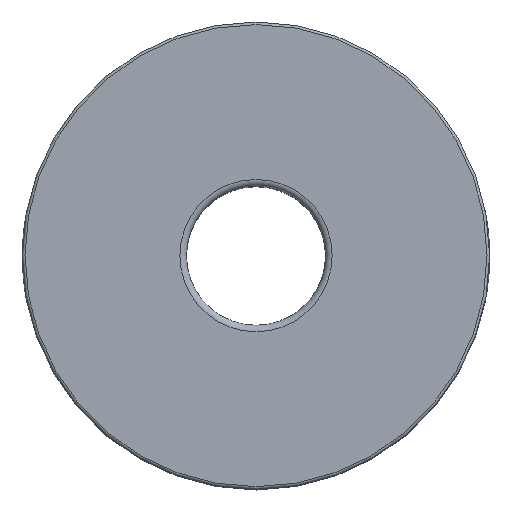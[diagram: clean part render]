
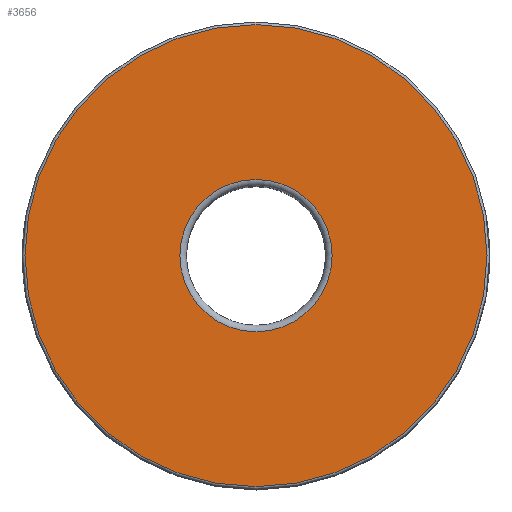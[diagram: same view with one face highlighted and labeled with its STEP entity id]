
A CAD part, top view. The second image highlights one B-rep face of the part: STEP entity #3656.
In plain terms, the highlighted planar face has unit normal (0, 0, 1).
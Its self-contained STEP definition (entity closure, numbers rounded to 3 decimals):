
#114=FACE_BOUND('',#345,.T.);
#136=FACE_OUTER_BOUND('',#344,.T.);
#344=EDGE_LOOP('',(#2419));
#345=EDGE_LOOP('',(#2420));
#1234=CIRCLE('',#3884,2.9);
#1238=CIRCLE('',#3889,8.8);
#1470=VERTEX_POINT('',#5553);
#1473=VERTEX_POINT('',#5561);
#1839=EDGE_CURVE('',#1470,#1470,#1234,.T.);
#1843=EDGE_CURVE('',#1473,#1473,#1238,.T.);
#2419=ORIENTED_EDGE('',*,*,#1843,.F.);
#2420=ORIENTED_EDGE('',*,*,#1839,.F.);
#3542=PLANE('',#3888);
#3656=ADVANCED_FACE('',(#136,#114),#3542,.T.);
#3884=AXIS2_PLACEMENT_3D('',#5554,#4343,#4344);
#3888=AXIS2_PLACEMENT_3D('',#5560,#4351,#4352);
#3889=AXIS2_PLACEMENT_3D('',#5562,#4353,#4354);
#4343=DIRECTION('center_axis',(0.,0.,1.));
#4344=DIRECTION('ref_axis',(1.,0.,0.));
#4351=DIRECTION('center_axis',(0.,0.,1.));
#4352=DIRECTION('ref_axis',(1.,0.,0.));
#4353=DIRECTION('center_axis',(0.,0.,-1.));
#4354=DIRECTION('ref_axis',(-1.,0.,0.));
#5553=CARTESIAN_POINT('',(2.9,0.,9.));
#5554=CARTESIAN_POINT('Origin',(0.,0.,9.));
#5560=CARTESIAN_POINT('Origin',(0.,0.,9.));
#5561=CARTESIAN_POINT('',(-8.8,0.,9.));
#5562=CARTESIAN_POINT('Origin',(0.,0.,9.));
